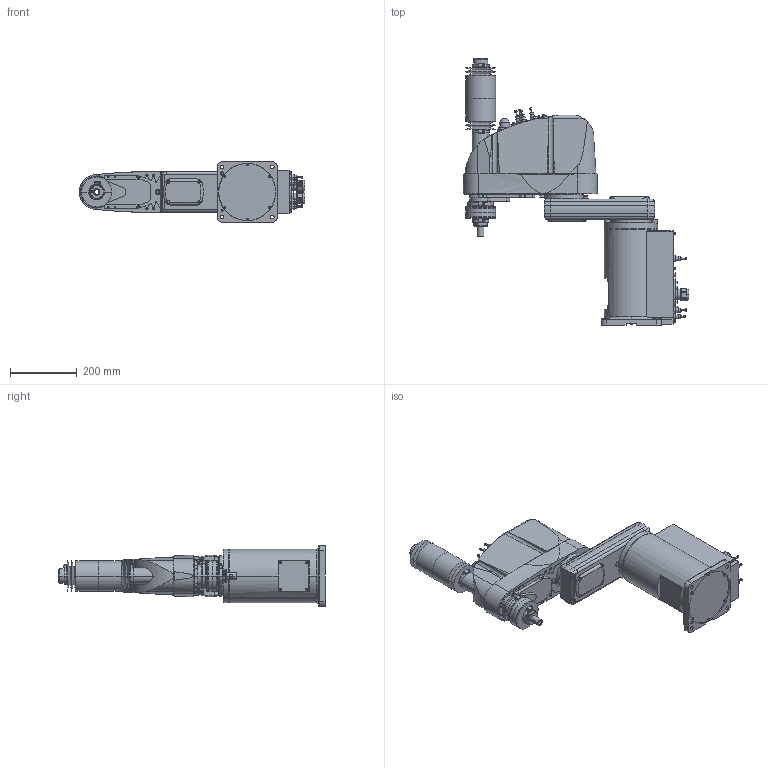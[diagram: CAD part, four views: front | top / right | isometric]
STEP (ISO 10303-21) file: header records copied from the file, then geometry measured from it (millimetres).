
FILE_DESCRIPTION( ( '' ), '1' );
FILE_NAME( '//expscmdclustefs.cadenas.external/client_exchange/iodir/jobs/output/wkb51513454_no0/STEP/G6_451P_2_03.stp', '2012-11-22T16:03:23', ( '' ), ( '' ), ' ', ' ', ' ' );
FILE_SCHEMA( ( 'CONFIG_CONTROL_DESIGN' ) );
Length unit declared in the file: millimetre
Products named in the file (8): 1; 2; 3; 4; 5; 6; 7; 8
Bounding box: 674 x 795.5 x 180 mm (x, y, z)
Volume: 20851516.1 mm3; surface area: 1051158.4 mm2
Topology: 8 solids, 8 shells, 1811 faces, 4351 edges, 2767 vertices
Faces by surface type: plane 860, cylinder 628, cone 282, torus 40, sphere 1
Entity records: 56340 total; most frequent: CARTESIAN_POINT 12922, DIRECTION 9320, ORIENTED_EDGE 8642, EDGE_CURVE 4321, AXIS2_PLACEMENT_3D 3399, VERTEX_POINT 2767, LINE 2522, VECTOR 2522
